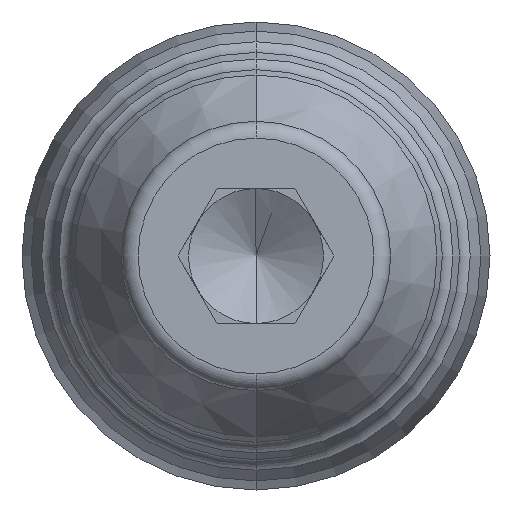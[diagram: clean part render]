
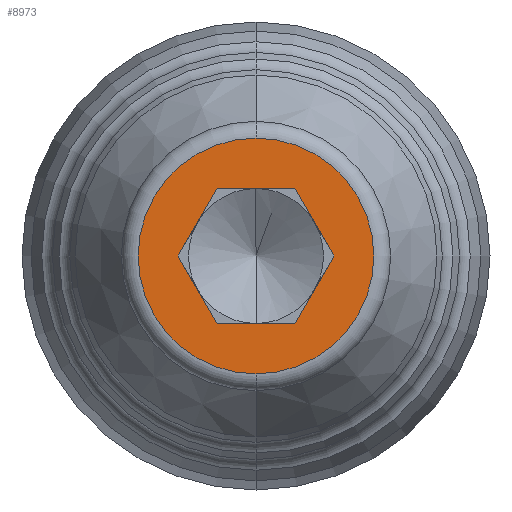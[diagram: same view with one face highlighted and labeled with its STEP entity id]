
A CAD part, left-side view. The second image highlights one B-rep face of the part: STEP entity #8973.
In plain terms, the highlighted planar face has unit normal (-1, 0, 0).
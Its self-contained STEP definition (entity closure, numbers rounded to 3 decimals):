
#10 = AXIS2_PLACEMENT_3D ( 'NONE', #4489, #1722, #6733 ) ;
#121 = VERTEX_POINT ( 'NONE', #6253 ) ;
#212 = ORIENTED_EDGE ( 'NONE', *, *, #7518, .T. ) ;
#274 = PLANE ( 'NONE',  #10 ) ;
#723 = EDGE_CURVE ( 'NONE', #121, #8765, #8046, .T. ) ;
#822 = CARTESIAN_POINT ( 'NONE',  ( -32.793, 32.664, 7. ) ) ;
#876 = DIRECTION ( 'NONE',  ( 0., -1., 0. ) ) ;
#1016 = CARTESIAN_POINT ( 'NONE',  ( -32.793, 34.981, -4.013 ) ) ;
#1052 = LINE ( 'NONE', #5814, #3517 ) ;
#1057 = VECTOR ( 'NONE', #876, 1000. ) ;
#1255 = DIRECTION ( 'NONE',  ( -1., 0., 0. ) ) ;
#1382 = VERTEX_POINT ( 'NONE', #822 ) ;
#1542 = VERTEX_POINT ( 'NONE', #3803 ) ;
#1607 = CARTESIAN_POINT ( 'NONE',  ( -32.793, 32.664, 0. ) ) ;
#1722 = DIRECTION ( 'NONE',  ( -1., 0., 0. ) ) ;
#1735 = ORIENTED_EDGE ( 'NONE', *, *, #3899, .F. ) ;
#1744 = CIRCLE ( 'NONE', #2564, 7. ) ;
#2076 = LINE ( 'NONE', #8623, #7564 ) ;
#2156 = CARTESIAN_POINT ( 'NONE',  ( -32.793, 34.981, -4.013 ) ) ;
#2332 = DIRECTION ( 'NONE',  ( -1., 0., 0. ) ) ;
#2500 = LINE ( 'NONE', #5166, #4063 ) ;
#2564 = AXIS2_PLACEMENT_3D ( 'NONE', #1607, #2332, #8071 ) ;
#2844 = CARTESIAN_POINT ( 'NONE',  ( -32.793, 37.298, 0. ) ) ;
#2923 = FACE_BOUND ( 'NONE', #5978, .T. ) ;
#3200 = VECTOR ( 'NONE', #4204, 1000. ) ;
#3413 = VERTEX_POINT ( 'NONE', #8646 ) ;
#3479 = EDGE_CURVE ( 'NONE', #8123, #5404, #5987, .T. ) ;
#3517 = VECTOR ( 'NONE', #7254, 1000. ) ;
#3573 = EDGE_CURVE ( 'NONE', #7411, #1382, #1744, .T. ) ;
#3803 = CARTESIAN_POINT ( 'NONE',  ( -32.793, 30.348, 4.012 ) ) ;
#3838 = FACE_OUTER_BOUND ( 'NONE', #4784, .T. ) ;
#3899 = EDGE_CURVE ( 'NONE', #1542, #8765, #1052, .T. ) ;
#4013 = AXIS2_PLACEMENT_3D ( 'NONE', #4881, #1255, #6269 ) ;
#4063 = VECTOR ( 'NONE', #7949, 1000. ) ;
#4204 = DIRECTION ( 'NONE',  ( 0., -0.5, 0.866 ) ) ;
#4263 = EDGE_CURVE ( 'NONE', #121, #8123, #6876, .T. ) ;
#4489 = CARTESIAN_POINT ( 'NONE',  ( -32.793, 32.664, 0. ) ) ;
#4503 = CARTESIAN_POINT ( 'NONE',  ( -32.793, 32.664, -7. ) ) ;
#4747 = CARTESIAN_POINT ( 'NONE',  ( -32.793, 34.981, 4.012 ) ) ;
#4784 = EDGE_LOOP ( 'NONE', ( #212, #6661 ) ) ;
#4881 = CARTESIAN_POINT ( 'NONE',  ( -32.793, 32.664, 0. ) ) ;
#4885 = CARTESIAN_POINT ( 'NONE',  ( -32.793, 30.348, -4.013 ) ) ;
#5166 = CARTESIAN_POINT ( 'NONE',  ( -32.793, 30.348, 4.012 ) ) ;
#5404 = VERTEX_POINT ( 'NONE', #4885 ) ;
#5417 = CIRCLE ( 'NONE', #4013, 7. ) ;
#5573 = DIRECTION ( 'NONE',  ( 0., -0.5, -0.866 ) ) ;
#5594 = EDGE_CURVE ( 'NONE', #3413, #5404, #2076, .T. ) ;
#5753 = ORIENTED_EDGE ( 'NONE', *, *, #723, .T. ) ;
#5814 = CARTESIAN_POINT ( 'NONE',  ( -32.793, 30.348, 4.012 ) ) ;
#5898 = ORIENTED_EDGE ( 'NONE', *, *, #4263, .F. ) ;
#5978 = EDGE_LOOP ( 'NONE', ( #5753, #1735, #6603, #7883, #7733, #5898 ) ) ;
#5987 = LINE ( 'NONE', #2156, #1057 ) ;
#6253 = CARTESIAN_POINT ( 'NONE',  ( -32.793, 37.298, 0. ) ) ;
#6269 = DIRECTION ( 'NONE',  ( 0., 0., 1. ) ) ;
#6429 = DIRECTION ( 'NONE',  ( 0., 0.5, -0.866 ) ) ;
#6603 = ORIENTED_EDGE ( 'NONE', *, *, #9240, .T. ) ;
#6661 = ORIENTED_EDGE ( 'NONE', *, *, #3573, .T. ) ;
#6733 = DIRECTION ( 'NONE',  ( 0., 0., 1. ) ) ;
#6876 = LINE ( 'NONE', #2844, #7230 ) ;
#7066 = CARTESIAN_POINT ( 'NONE',  ( -32.793, 37.298, 0. ) ) ;
#7230 = VECTOR ( 'NONE', #5573, 1000. ) ;
#7254 = DIRECTION ( 'NONE',  ( 0., 1., 0. ) ) ;
#7411 = VERTEX_POINT ( 'NONE', #4503 ) ;
#7518 = EDGE_CURVE ( 'NONE', #1382, #7411, #5417, .T. ) ;
#7564 = VECTOR ( 'NONE', #6429, 1000. ) ;
#7733 = ORIENTED_EDGE ( 'NONE', *, *, #3479, .F. ) ;
#7883 = ORIENTED_EDGE ( 'NONE', *, *, #5594, .T. ) ;
#7949 = DIRECTION ( 'NONE',  ( 0., -0.5, -0.866 ) ) ;
#8046 = LINE ( 'NONE', #7066, #3200 ) ;
#8071 = DIRECTION ( 'NONE',  ( 0., 0., 1. ) ) ;
#8123 = VERTEX_POINT ( 'NONE', #1016 ) ;
#8623 = CARTESIAN_POINT ( 'NONE',  ( -32.793, 28.031, 0. ) ) ;
#8646 = CARTESIAN_POINT ( 'NONE',  ( -32.793, 28.031, 0. ) ) ;
#8765 = VERTEX_POINT ( 'NONE', #4747 ) ;
#8973 = ADVANCED_FACE ( 'NONE', ( #2923, #3838 ), #274, .T. ) ;
#9240 = EDGE_CURVE ( 'NONE', #1542, #3413, #2500, .T. ) ;
